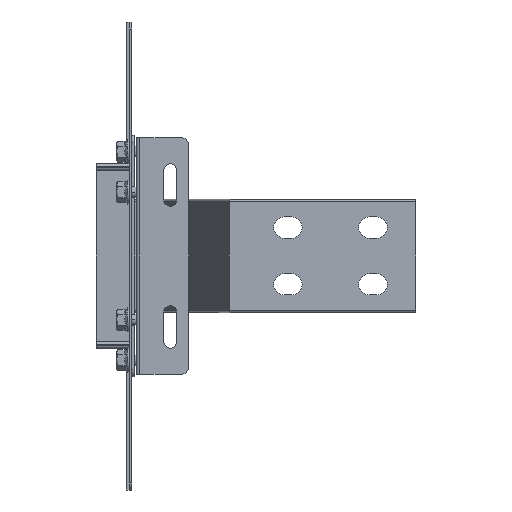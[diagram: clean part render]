
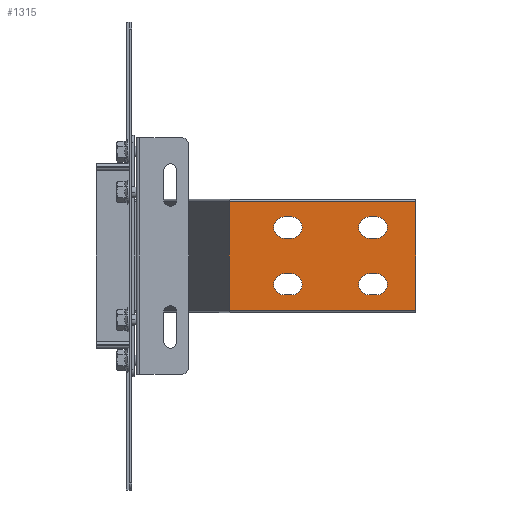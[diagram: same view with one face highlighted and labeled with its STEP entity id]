
A CAD part, front view. The second image highlights one B-rep face of the part: STEP entity #1315.
In plain terms, the highlighted planar face has unit normal (0, -1, 0).
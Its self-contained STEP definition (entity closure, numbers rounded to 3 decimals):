
#1143=AXIS2_PLACEMENT_3D('Plane Axis2P3D',#1140,#1141,#1142) ;
#1181=AXIS2_PLACEMENT_3D('Circle Axis2P3D',#1179,#1180,$) ;
#1197=AXIS2_PLACEMENT_3D('Circle Axis2P3D',#1195,#1196,$) ;
#1215=AXIS2_PLACEMENT_3D('Circle Axis2P3D',#1213,#1214,$) ;
#1231=AXIS2_PLACEMENT_3D('Circle Axis2P3D',#1229,#1230,$) ;
#1249=AXIS2_PLACEMENT_3D('Circle Axis2P3D',#1247,#1248,$) ;
#1265=AXIS2_PLACEMENT_3D('Circle Axis2P3D',#1263,#1264,$) ;
#1292=AXIS2_PLACEMENT_3D('Circle Axis2P3D',#1290,#1291,$) ;
#1306=AXIS2_PLACEMENT_3D('Circle Axis2P3D',#1304,#1305,$) ;
#1140=CARTESIAN_POINT('Axis2P3D Location',(200.,-151.9,-38.1)) ;
#1145=CARTESIAN_POINT('Line Origine',(134.368,-151.9,-38.1)) ;
#1149=CARTESIAN_POINT('Vertex',(200.,-151.9,-38.1)) ;
#1151=CARTESIAN_POINT('Vertex',(68.736,-151.9,-38.1)) ;
#1154=CARTESIAN_POINT('Line Origine',(200.,-151.9,0.)) ;
#1158=CARTESIAN_POINT('Vertex',(200.,-151.9,38.1)) ;
#1161=CARTESIAN_POINT('Line Origine',(134.368,-151.9,38.1)) ;
#1165=CARTESIAN_POINT('Vertex',(68.736,-151.9,38.1)) ;
#1168=CARTESIAN_POINT('Line Origine',(68.736,-151.9,0.)) ;
#1179=CARTESIAN_POINT('Axis2P3D Location',(112.5,-151.9,20.)) ;
#1183=CARTESIAN_POINT('Vertex',(112.5,-151.9,12.5)) ;
#1185=CARTESIAN_POINT('Vertex',(112.5,-151.9,27.5)) ;
#1188=CARTESIAN_POINT('Line Origine',(110.,-151.9,12.5)) ;
#1192=CARTESIAN_POINT('Vertex',(107.5,-151.9,12.5)) ;
#1195=CARTESIAN_POINT('Axis2P3D Location',(107.5,-151.9,20.)) ;
#1199=CARTESIAN_POINT('Vertex',(107.5,-151.9,27.5)) ;
#1202=CARTESIAN_POINT('Line Origine',(110.,-151.9,27.5)) ;
#1213=CARTESIAN_POINT('Axis2P3D Location',(172.5,-151.9,20.)) ;
#1217=CARTESIAN_POINT('Vertex',(172.5,-151.9,12.5)) ;
#1219=CARTESIAN_POINT('Vertex',(172.5,-151.9,27.5)) ;
#1222=CARTESIAN_POINT('Line Origine',(170.,-151.9,12.5)) ;
#1226=CARTESIAN_POINT('Vertex',(167.5,-151.9,12.5)) ;
#1229=CARTESIAN_POINT('Axis2P3D Location',(167.5,-151.9,20.)) ;
#1233=CARTESIAN_POINT('Vertex',(167.5,-151.9,27.5)) ;
#1236=CARTESIAN_POINT('Line Origine',(170.,-151.9,27.5)) ;
#1247=CARTESIAN_POINT('Axis2P3D Location',(107.5,-151.9,-20.)) ;
#1251=CARTESIAN_POINT('Vertex',(107.5,-151.9,-12.5)) ;
#1253=CARTESIAN_POINT('Vertex',(107.5,-151.9,-27.5)) ;
#1256=CARTESIAN_POINT('Line Origine',(110.,-151.9,-12.5)) ;
#1260=CARTESIAN_POINT('Vertex',(112.5,-151.9,-12.5)) ;
#1263=CARTESIAN_POINT('Axis2P3D Location',(112.5,-151.9,-20.)) ;
#1267=CARTESIAN_POINT('Vertex',(112.5,-151.9,-27.5)) ;
#1270=CARTESIAN_POINT('Line Origine',(110.,-151.9,-27.5)) ;
#1281=CARTESIAN_POINT('Line Origine',(170.,-151.9,-12.5)) ;
#1285=CARTESIAN_POINT('Vertex',(172.5,-151.9,-12.5)) ;
#1287=CARTESIAN_POINT('Vertex',(167.5,-151.9,-12.5)) ;
#1290=CARTESIAN_POINT('Axis2P3D Location',(172.5,-151.9,-20.)) ;
#1294=CARTESIAN_POINT('Vertex',(172.5,-151.9,-27.5)) ;
#1297=CARTESIAN_POINT('Line Origine',(170.,-151.9,-27.5)) ;
#1301=CARTESIAN_POINT('Vertex',(167.5,-151.9,-27.5)) ;
#1304=CARTESIAN_POINT('Axis2P3D Location',(167.5,-151.9,-20.)) ;
#1141=DIRECTION('Axis2P3D Direction',(0.,-1.,0.)) ;
#1142=DIRECTION('Axis2P3D XDirection',(0.,0.,1.)) ;
#1146=DIRECTION('Vector Direction',(-1.,0.,0.)) ;
#1155=DIRECTION('Vector Direction',(0.,0.,1.)) ;
#1162=DIRECTION('Vector Direction',(-1.,0.,0.)) ;
#1169=DIRECTION('Vector Direction',(0.,0.,1.)) ;
#1180=DIRECTION('Axis2P3D Direction',(0.,-1.,0.)) ;
#1189=DIRECTION('Vector Direction',(-1.,0.,0.)) ;
#1196=DIRECTION('Axis2P3D Direction',(0.,-1.,0.)) ;
#1203=DIRECTION('Vector Direction',(1.,0.,0.)) ;
#1214=DIRECTION('Axis2P3D Direction',(0.,-1.,0.)) ;
#1223=DIRECTION('Vector Direction',(1.,0.,0.)) ;
#1230=DIRECTION('Axis2P3D Direction',(0.,-1.,0.)) ;
#1237=DIRECTION('Vector Direction',(-1.,0.,0.)) ;
#1248=DIRECTION('Axis2P3D Direction',(0.,-1.,0.)) ;
#1257=DIRECTION('Vector Direction',(-1.,0.,0.)) ;
#1264=DIRECTION('Axis2P3D Direction',(0.,-1.,0.)) ;
#1271=DIRECTION('Vector Direction',(1.,0.,0.)) ;
#1282=DIRECTION('Vector Direction',(1.,0.,0.)) ;
#1291=DIRECTION('Axis2P3D Direction',(0.,-1.,0.)) ;
#1298=DIRECTION('Vector Direction',(-1.,0.,0.)) ;
#1305=DIRECTION('Axis2P3D Direction',(0.,-1.,0.)) ;
#1147=VECTOR('Line Direction',#1146,1.) ;
#1156=VECTOR('Line Direction',#1155,1.) ;
#1163=VECTOR('Line Direction',#1162,1.) ;
#1170=VECTOR('Line Direction',#1169,1.) ;
#1190=VECTOR('Line Direction',#1189,1.) ;
#1204=VECTOR('Line Direction',#1203,1.) ;
#1224=VECTOR('Line Direction',#1223,1.) ;
#1238=VECTOR('Line Direction',#1237,1.) ;
#1258=VECTOR('Line Direction',#1257,1.) ;
#1272=VECTOR('Line Direction',#1271,1.) ;
#1283=VECTOR('Line Direction',#1282,1.) ;
#1299=VECTOR('Line Direction',#1298,1.) ;
#1174=ORIENTED_EDGE('',*,*,#1153,.F.) ;
#1175=ORIENTED_EDGE('',*,*,#1160,.F.) ;
#1176=ORIENTED_EDGE('',*,*,#1167,.T.) ;
#1177=ORIENTED_EDGE('',*,*,#1172,.F.) ;
#1208=ORIENTED_EDGE('',*,*,#1187,.F.) ;
#1209=ORIENTED_EDGE('',*,*,#1194,.F.) ;
#1210=ORIENTED_EDGE('',*,*,#1201,.F.) ;
#1211=ORIENTED_EDGE('',*,*,#1206,.F.) ;
#1242=ORIENTED_EDGE('',*,*,#1221,.F.) ;
#1243=ORIENTED_EDGE('',*,*,#1228,.F.) ;
#1244=ORIENTED_EDGE('',*,*,#1235,.F.) ;
#1245=ORIENTED_EDGE('',*,*,#1240,.F.) ;
#1276=ORIENTED_EDGE('',*,*,#1255,.F.) ;
#1277=ORIENTED_EDGE('',*,*,#1262,.F.) ;
#1278=ORIENTED_EDGE('',*,*,#1269,.F.) ;
#1279=ORIENTED_EDGE('',*,*,#1274,.F.) ;
#1310=ORIENTED_EDGE('',*,*,#1289,.F.) ;
#1311=ORIENTED_EDGE('',*,*,#1296,.F.) ;
#1312=ORIENTED_EDGE('',*,*,#1303,.F.) ;
#1313=ORIENTED_EDGE('',*,*,#1308,.F.) ;
#1212=FACE_BOUND('',#1207,.T.) ;
#1246=FACE_BOUND('',#1241,.T.) ;
#1280=FACE_BOUND('',#1275,.T.) ;
#1314=FACE_BOUND('',#1309,.T.) ;
#1315=ADVANCED_FACE('N',(#1178,#1212,#1246,#1280,#1314),#1144,.T.) ;
#1182=CIRCLE('generated circle',#1181,7.5) ;
#1198=CIRCLE('generated circle',#1197,7.5) ;
#1216=CIRCLE('generated circle',#1215,7.5) ;
#1232=CIRCLE('generated circle',#1231,7.5) ;
#1250=CIRCLE('generated circle',#1249,7.5) ;
#1266=CIRCLE('generated circle',#1265,7.5) ;
#1293=CIRCLE('generated circle',#1292,7.5) ;
#1307=CIRCLE('generated circle',#1306,7.5) ;
#1153=EDGE_CURVE('',#1150,#1152,#1148,.T.) ;
#1160=EDGE_CURVE('',#1159,#1150,#1157,.F.) ;
#1167=EDGE_CURVE('',#1159,#1166,#1164,.T.) ;
#1172=EDGE_CURVE('',#1152,#1166,#1171,.T.) ;
#1187=EDGE_CURVE('',#1184,#1186,#1182,.T.) ;
#1194=EDGE_CURVE('',#1193,#1184,#1191,.F.) ;
#1201=EDGE_CURVE('',#1200,#1193,#1198,.T.) ;
#1206=EDGE_CURVE('',#1186,#1200,#1205,.F.) ;
#1221=EDGE_CURVE('',#1218,#1220,#1216,.T.) ;
#1228=EDGE_CURVE('',#1227,#1218,#1225,.T.) ;
#1235=EDGE_CURVE('',#1234,#1227,#1232,.T.) ;
#1240=EDGE_CURVE('',#1220,#1234,#1239,.T.) ;
#1255=EDGE_CURVE('',#1252,#1254,#1250,.T.) ;
#1262=EDGE_CURVE('',#1261,#1252,#1259,.T.) ;
#1269=EDGE_CURVE('',#1268,#1261,#1266,.T.) ;
#1274=EDGE_CURVE('',#1254,#1268,#1273,.T.) ;
#1289=EDGE_CURVE('',#1286,#1288,#1284,.F.) ;
#1296=EDGE_CURVE('',#1295,#1286,#1293,.T.) ;
#1303=EDGE_CURVE('',#1302,#1295,#1300,.F.) ;
#1308=EDGE_CURVE('',#1288,#1302,#1307,.T.) ;
#1173=EDGE_LOOP('',(#1174,#1175,#1176,#1177)) ;
#1207=EDGE_LOOP('',(#1208,#1209,#1210,#1211)) ;
#1241=EDGE_LOOP('',(#1242,#1243,#1244,#1245)) ;
#1275=EDGE_LOOP('',(#1276,#1277,#1278,#1279)) ;
#1309=EDGE_LOOP('',(#1310,#1311,#1312,#1313)) ;
#1178=FACE_OUTER_BOUND('',#1173,.T.) ;
#1148=LINE('Line',#1145,#1147) ;
#1157=LINE('Line',#1154,#1156) ;
#1164=LINE('Line',#1161,#1163) ;
#1171=LINE('Line',#1168,#1170) ;
#1191=LINE('Line',#1188,#1190) ;
#1205=LINE('Line',#1202,#1204) ;
#1225=LINE('Line',#1222,#1224) ;
#1239=LINE('Line',#1236,#1238) ;
#1259=LINE('Line',#1256,#1258) ;
#1273=LINE('Line',#1270,#1272) ;
#1284=LINE('Line',#1281,#1283) ;
#1300=LINE('Line',#1297,#1299) ;
#1144=PLANE('',#1143) ;
#1150=VERTEX_POINT('',#1149) ;
#1152=VERTEX_POINT('',#1151) ;
#1159=VERTEX_POINT('',#1158) ;
#1166=VERTEX_POINT('',#1165) ;
#1184=VERTEX_POINT('',#1183) ;
#1186=VERTEX_POINT('',#1185) ;
#1193=VERTEX_POINT('',#1192) ;
#1200=VERTEX_POINT('',#1199) ;
#1218=VERTEX_POINT('',#1217) ;
#1220=VERTEX_POINT('',#1219) ;
#1227=VERTEX_POINT('',#1226) ;
#1234=VERTEX_POINT('',#1233) ;
#1252=VERTEX_POINT('',#1251) ;
#1254=VERTEX_POINT('',#1253) ;
#1261=VERTEX_POINT('',#1260) ;
#1268=VERTEX_POINT('',#1267) ;
#1286=VERTEX_POINT('',#1285) ;
#1288=VERTEX_POINT('',#1287) ;
#1295=VERTEX_POINT('',#1294) ;
#1302=VERTEX_POINT('',#1301) ;
